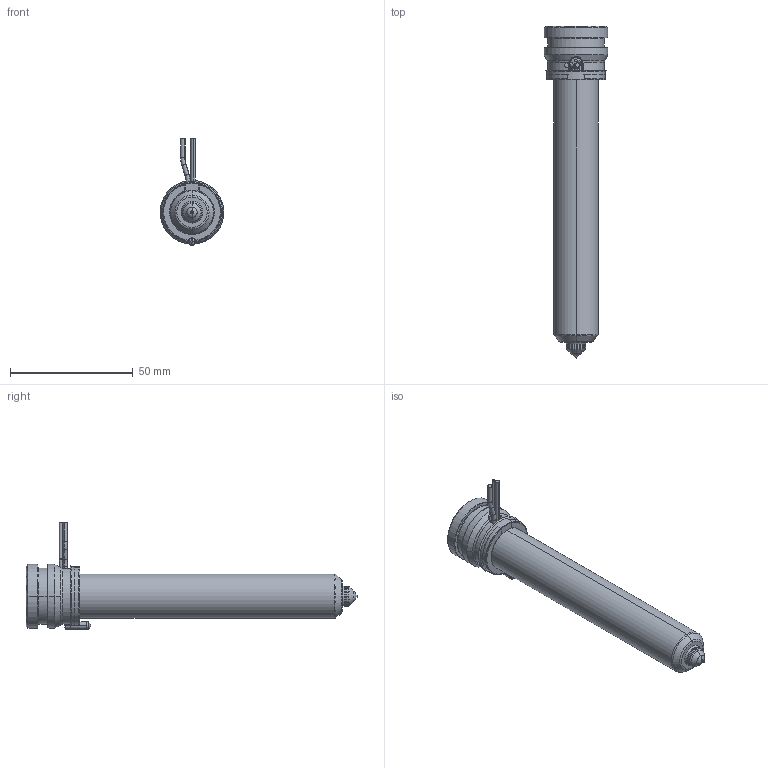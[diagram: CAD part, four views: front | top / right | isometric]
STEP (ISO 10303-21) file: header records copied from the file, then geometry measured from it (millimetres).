
FILE_DESCRIPTION((''),'2;1');
FILE_NAME('MPN-08-24-VX8-116-A','2026-02-05T12:00:04',('UPTIO'),('Thermoplay S.p.A.'),'CREO PARAMETRIC BY PTC INC, 2023494','CREO PARAMETRIC BY PTC INC, 2023494','');
FILE_SCHEMA(('CONFIG_CONTROL_DESIGN','SHAPE_APPEARANCE_LAYERS_GROUPS'));
Length unit declared in the file: millimetre
Products named in the file (1): MPN-08-24-VX8-116-A
Bounding box: 26 x 135.5 x 43.5 mm (x, y, z)
Volume: 26067.6 mm3; surface area: 33382.1 mm2
Topology: 2 solids, 3 shells, 545 faces, 1438 edges, 891 vertices
Faces by surface type: cylinder 180, plane 143, bspline 82, cone 62, torus 62, sphere 10, extrusion 6
Entity records: 28426 total; most frequent: CARTESIAN_POINT 12187, ORIENTED_EDGE 2860, DIRECTION 2578, EDGE_CURVE 1430, AXIS2_PLACEMENT_3D 1007, VERTEX_POINT 891, EDGE_LOOP 573, VECTOR 564
